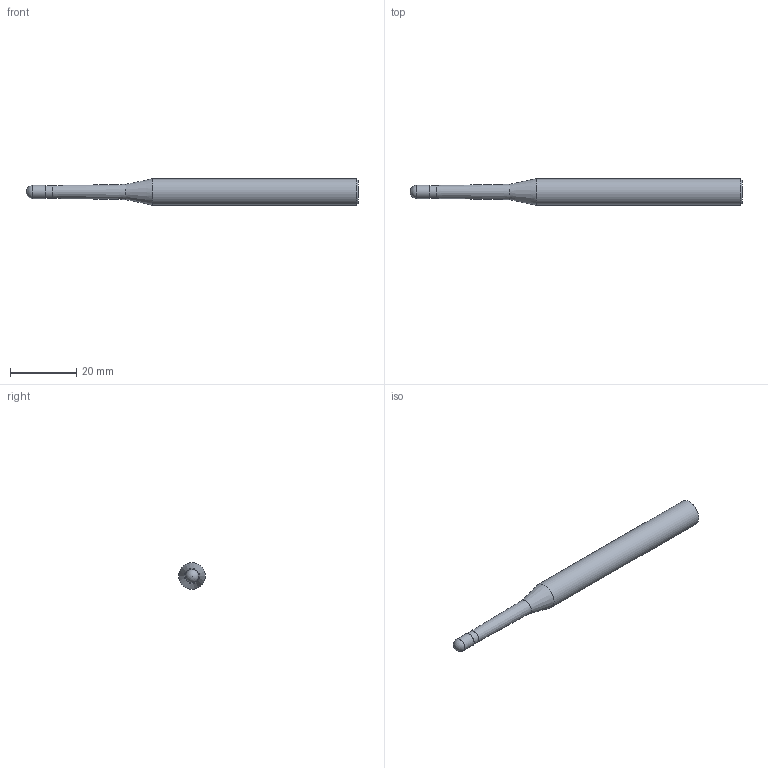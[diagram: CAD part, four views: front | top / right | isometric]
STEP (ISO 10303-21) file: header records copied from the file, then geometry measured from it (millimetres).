
FILE_DESCRIPTION(/* description */ (''),/* implementation_level */ '2;1');
FILE_NAME(/* name */ 'HGXPB2040-30-T0.9 08100.stp',/* time_stamp */ '2026-01-23T15:57:31+08:00',/* author */ (''),/* organization */ (''),/* preprocessor_version */ 'ST-DEVELOPER v16',/* originating_system */ 'SIEMENS PLM Software NX 10.0',/* authorisation */ '');
FILE_SCHEMA (('CONFIG_CONTROL_DESIGN'));
Length unit declared in the file: millimetre
Products named in the file (1): HGXPB2040-30-T0.9 08100_dxf
Bounding box: 100 x 8 x 8 mm (x, y, z)
Volume: 3772.3 mm3; surface area: 2158.1 mm2
Topology: 1 solids, 1 shells, 9 faces, 17 edges, 10 vertices
Faces by surface type: cylinder 3, cone 3, plane 2, sphere 1
Full cylindrical faces by diameter (mm): 3.9 x1, 4 x1, 8 x1
Entity records: 258 total; most frequent: DIRECTION 36, CARTESIAN_POINT 26, AXIS2_PLACEMENT_3D 18, EDGE_LOOP 16, ORIENTED_EDGE 16, FACE_BOUND 14, ADVANCED_FACE 9, VERTEX_POINT 8
